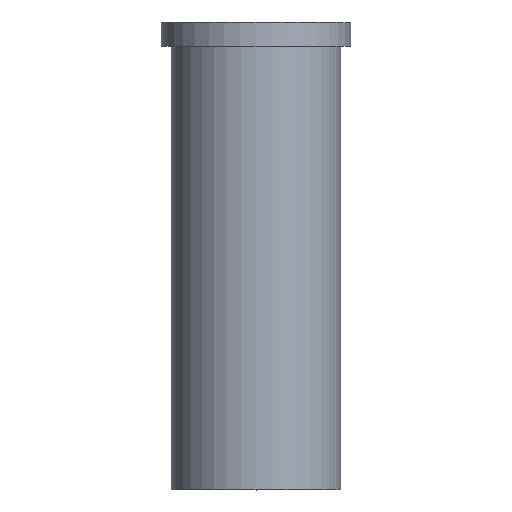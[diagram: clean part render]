
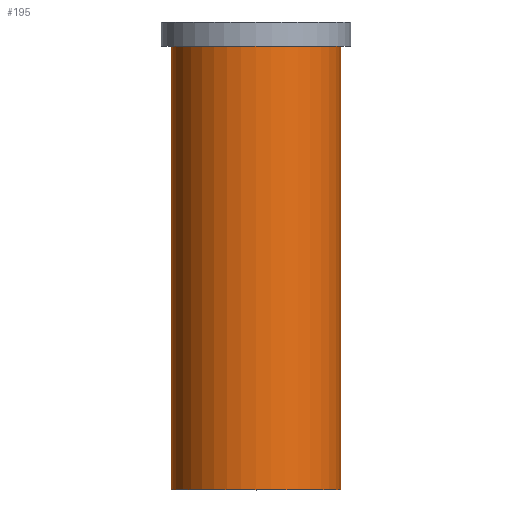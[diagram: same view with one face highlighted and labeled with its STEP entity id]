
A CAD part, top view. The second image highlights one B-rep face of the part: STEP entity #195.
In plain terms, the highlighted cylindrical face has radius 21 mm (diameter 42 mm), a full revolution.
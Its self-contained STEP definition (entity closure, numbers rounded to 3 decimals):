
#32=ORIENTED_EDGE('',*,*,#50,.T.);
#33=ORIENTED_EDGE('',*,*,#49,.F.);
#49=EDGE_CURVE('',#59,#59,#69,.T.);
#50=EDGE_CURVE('',#60,#60,#70,.T.);
#59=VERTEX_POINT('',#280);
#60=VERTEX_POINT('',#283);
#69=CIRCLE('',#213,21.);
#70=CIRCLE('',#215,21.);
#82=EDGE_LOOP('',(#32));
#83=EDGE_LOOP('',(#33));
#102=FACE_BOUND('',#82,.T.);
#103=FACE_BOUND('',#83,.T.);
#117=CYLINDRICAL_SURFACE('',#214,21.);
#195=ADVANCED_FACE('',(#102,#103),#117,.T.);
#213=AXIS2_PLACEMENT_3D('',#279,#241,#242);
#214=AXIS2_PLACEMENT_3D('',#281,#243,#244);
#215=AXIS2_PLACEMENT_3D('',#282,#245,#246);
#241=DIRECTION('',(0.,-1.,0.));
#242=DIRECTION('',(0.,0.,-1.));
#243=DIRECTION('',(0.,-1.,0.));
#244=DIRECTION('',(0.,0.,-1.));
#245=DIRECTION('',(0.,-1.,0.));
#246=DIRECTION('',(0.,0.,-1.));
#279=CARTESIAN_POINT('',(0.,0.,0.));
#280=CARTESIAN_POINT('',(0.,0.,-21.));
#281=CARTESIAN_POINT('',(0.,0.,0.));
#282=CARTESIAN_POINT('',(0.,110.,0.));
#283=CARTESIAN_POINT('',(0.,110.,-21.));
